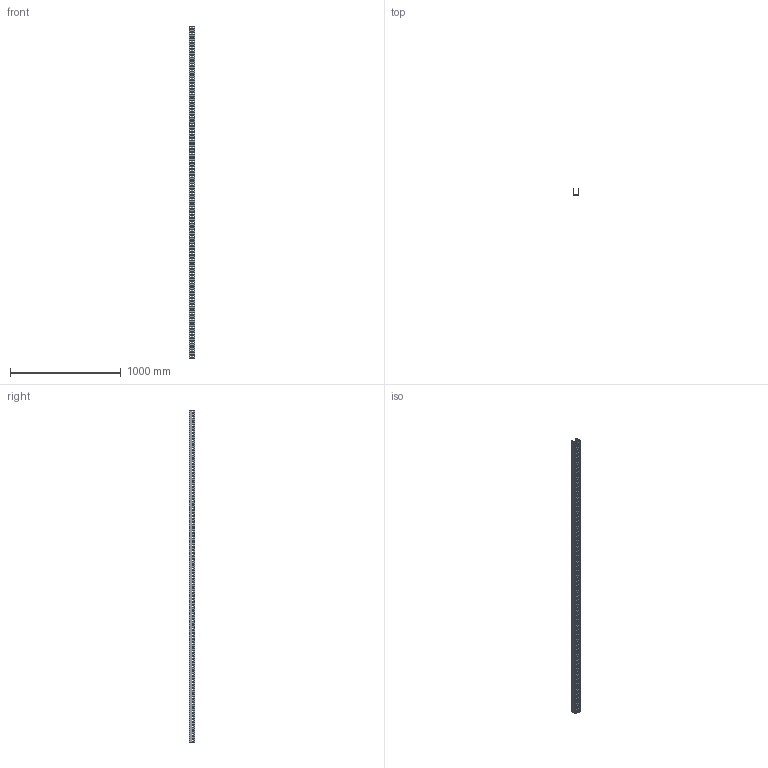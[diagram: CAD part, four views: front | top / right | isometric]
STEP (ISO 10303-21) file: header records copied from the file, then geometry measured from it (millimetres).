
FILE_DESCRIPTION (( 'STEP AP214' ), '1' );
FILE_NAME ('01F3B050.step', '2025-02-21T13:19:07', ( '' ), ( '' ), 'SwSTEP 2.0', 'SolidWorks 2023', '' );
FILE_SCHEMA (( 'AUTOMOTIVE_DESIGN' ));
Length unit declared in the file: millimetre
Products named in the file (1): 01F3B050
Bounding box: 54 x 52 x 3000 mm (x, y, z)
Volume: 1409100 mm3; surface area: 891769 mm2
Topology: 1 solids, 1 shells, 1162 faces, 3480 edges, 2320 vertices
Faces by surface type: plane 1162
Entity records: 39479 total; most frequent: CARTESIAN_POINT 6963, ORIENTED_EDGE 6960, DIRECTION 5806, VECTOR 3480, EDGE_CURVE 3480, LINE 3480, VERTEX_POINT 2320, EDGE_LOOP 1738
